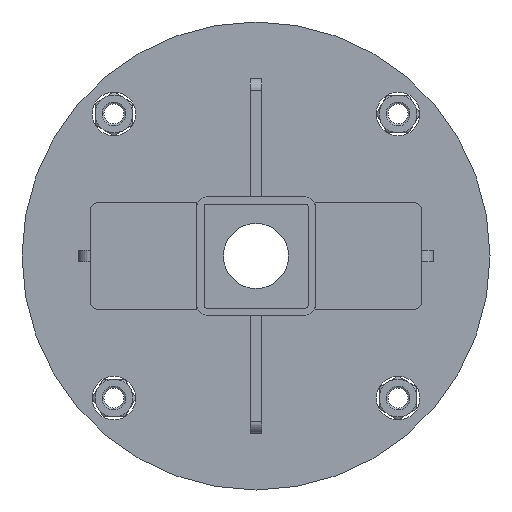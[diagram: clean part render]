
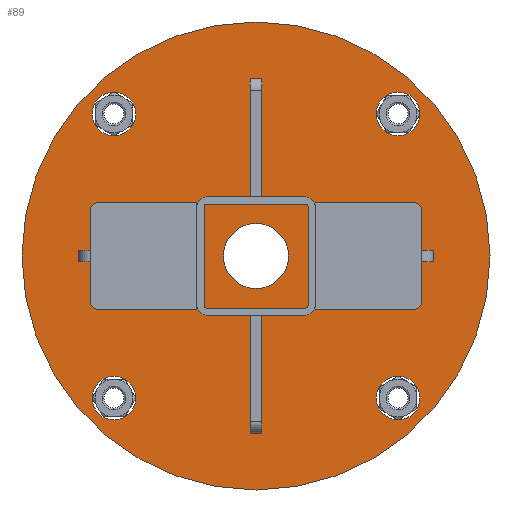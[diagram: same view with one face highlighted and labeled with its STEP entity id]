
A CAD part, front view. The second image highlights one B-rep face of the part: STEP entity #89.
In plain terms, the highlighted planar face has unit normal (0, -1, 0) as drawn and (0, 0, -1) by its records, which use the part's own axes.
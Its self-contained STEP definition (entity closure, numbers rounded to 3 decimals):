
#7 = AXIS2_PLACEMENT_3D ( 'NONE', #2740, #859, #1666 ) ;
#89 = ADVANCED_FACE ( 'NONE', ( #1028, #3237, #3029, #2435, #993, #2746 ), #1055, .F. ) ;
#124 = CARTESIAN_POINT ( 'NONE',  ( -60.104, -60.104, -10. ) ) ;
#127 = ORIENTED_EDGE ( 'NONE', *, *, #1507, .T. ) ;
#135 = CARTESIAN_POINT ( 'NONE',  ( -69.354, 60.104, -10. ) ) ;
#202 = CARTESIAN_POINT ( 'NONE',  ( 69.354, 60.104, -10. ) ) ;
#230 = CIRCLE ( 'NONE', #3252, 9.25 ) ;
#242 = EDGE_CURVE ( 'NONE', #2654, #869, #3076, .T. ) ;
#273 = AXIS2_PLACEMENT_3D ( 'NONE', #964, #699, #1499 ) ;
#388 = CIRCLE ( 'NONE', #1875, 9.25 ) ;
#420 = EDGE_CURVE ( 'NONE', #1089, #1438, #2747, .T. ) ;
#436 = CIRCLE ( 'NONE', #801, 13.75 ) ;
#449 = ORIENTED_EDGE ( 'NONE', *, *, #420, .F. ) ;
#457 = DIRECTION ( 'NONE',  ( 1., 0., 0. ) ) ;
#516 = DIRECTION ( 'NONE',  ( 1., 0., 0. ) ) ;
#519 = EDGE_CURVE ( 'NONE', #2895, #1231, #1435, .T. ) ;
#520 = DIRECTION ( 'NONE',  ( 1., 0., 0. ) ) ;
#552 = DIRECTION ( 'NONE',  ( 1., 0., 0. ) ) ;
#587 = EDGE_CURVE ( 'NONE', #765, #2601, #2549, .T. ) ;
#603 = DIRECTION ( 'NONE',  ( 0., 0., 1. ) ) ;
#664 = DIRECTION ( 'NONE',  ( 1., 0., 0. ) ) ;
#694 = EDGE_LOOP ( 'NONE', ( #3122, #2124 ) ) ;
#699 = DIRECTION ( 'NONE',  ( 0., 0., 1. ) ) ;
#765 = VERTEX_POINT ( 'NONE', #1712 ) ;
#801 = AXIS2_PLACEMENT_3D ( 'NONE', #918, #1733, #2010 ) ;
#859 = DIRECTION ( 'NONE',  ( 0., 0., 1. ) ) ;
#868 = DIRECTION ( 'NONE',  ( 1., 0., 0. ) ) ;
#869 = VERTEX_POINT ( 'NONE', #1671 ) ;
#918 = CARTESIAN_POINT ( 'NONE',  ( 0., 0., -10. ) ) ;
#964 = CARTESIAN_POINT ( 'NONE',  ( -60.104, -60.104, -10. ) ) ;
#977 = VERTEX_POINT ( 'NONE', #3179 ) ;
#993 = FACE_BOUND ( 'NONE', #2935, .T. ) ;
#1019 = EDGE_CURVE ( 'NONE', #1607, #977, #2142, .T. ) ;
#1028 = FACE_BOUND ( 'NONE', #694, .T. ) ;
#1035 = CARTESIAN_POINT ( 'NONE',  ( 0., 0., -10. ) ) ;
#1055 = PLANE ( 'NONE',  #2418 ) ;
#1071 = ORIENTED_EDGE ( 'NONE', *, *, #3206, .T. ) ;
#1074 = CARTESIAN_POINT ( 'NONE',  ( 0., 0., -10. ) ) ;
#1089 = VERTEX_POINT ( 'NONE', #1243 ) ;
#1109 = DIRECTION ( 'NONE',  ( 0., 0., 1. ) ) ;
#1128 = DIRECTION ( 'NONE',  ( 0., 0., 1. ) ) ;
#1152 = EDGE_LOOP ( 'NONE', ( #1426, #2046 ) ) ;
#1231 = VERTEX_POINT ( 'NONE', #1821 ) ;
#1243 = CARTESIAN_POINT ( 'NONE',  ( -99., 0., -10. ) ) ;
#1252 = EDGE_CURVE ( 'NONE', #1438, #1089, #1987, .T. ) ;
#1264 = AXIS2_PLACEMENT_3D ( 'NONE', #124, #2300, #664 ) ;
#1276 = DIRECTION ( 'NONE',  ( 0., 0., 1. ) ) ;
#1397 = ORIENTED_EDGE ( 'NONE', *, *, #2122, .T. ) ;
#1426 = ORIENTED_EDGE ( 'NONE', *, *, #3400, .T. ) ;
#1435 = CIRCLE ( 'NONE', #2101, 9.25 ) ;
#1438 = VERTEX_POINT ( 'NONE', #2228 ) ;
#1488 = EDGE_LOOP ( 'NONE', ( #3119, #1397 ) ) ;
#1499 = DIRECTION ( 'NONE',  ( 1., 0., 0. ) ) ;
#1504 = CIRCLE ( 'NONE', #1264, 9.25 ) ;
#1507 = EDGE_CURVE ( 'NONE', #2601, #765, #230, .T. ) ;
#1543 = DIRECTION ( 'NONE',  ( 1., 0., 0. ) ) ;
#1552 = VERTEX_POINT ( 'NONE', #3073 ) ;
#1576 = CARTESIAN_POINT ( 'NONE',  ( 60.104, -60.104, -10. ) ) ;
#1607 = VERTEX_POINT ( 'NONE', #135 ) ;
#1637 = ORIENTED_EDGE ( 'NONE', *, *, #587, .T. ) ;
#1662 = CARTESIAN_POINT ( 'NONE',  ( 60.104, 60.104, -10. ) ) ;
#1666 = DIRECTION ( 'NONE',  ( 1., 0., 0. ) ) ;
#1671 = CARTESIAN_POINT ( 'NONE',  ( -13.75, 0., -10. ) ) ;
#1712 = CARTESIAN_POINT ( 'NONE',  ( 50.854, 60.104, -10. ) ) ;
#1733 = DIRECTION ( 'NONE',  ( 0., 0., 1. ) ) ;
#1821 = CARTESIAN_POINT ( 'NONE',  ( 50.854, -60.104, -10. ) ) ;
#1847 = AXIS2_PLACEMENT_3D ( 'NONE', #1035, #2941, #1543 ) ;
#1875 = AXIS2_PLACEMENT_3D ( 'NONE', #2239, #1109, #868 ) ;
#1877 = DIRECTION ( 'NONE',  ( 0., 0., 1. ) ) ;
#1915 = CARTESIAN_POINT ( 'NONE',  ( 60.104, 60.104, -10. ) ) ;
#1978 = CARTESIAN_POINT ( 'NONE',  ( 69.354, -60.104, -10. ) ) ;
#1987 = CIRCLE ( 'NONE', #1847, 99. ) ;
#2010 = DIRECTION ( 'NONE',  ( 1., 0., 0. ) ) ;
#2046 = ORIENTED_EDGE ( 'NONE', *, *, #1019, .T. ) ;
#2101 = AXIS2_PLACEMENT_3D ( 'NONE', #3226, #1877, #520 ) ;
#2122 = EDGE_CURVE ( 'NONE', #1231, #2895, #3245, .T. ) ;
#2124 = ORIENTED_EDGE ( 'NONE', *, *, #2394, .T. ) ;
#2137 = DIRECTION ( 'NONE',  ( 1., 0., 0. ) ) ;
#2142 = CIRCLE ( 'NONE', #2469, 9.25 ) ;
#2159 = CARTESIAN_POINT ( 'NONE',  ( 13.75, 0., -10. ) ) ;
#2191 = DIRECTION ( 'NONE',  ( 0., 0., 1. ) ) ;
#2195 = DIRECTION ( 'NONE',  ( 1., 0., 0. ) ) ;
#2197 = AXIS2_PLACEMENT_3D ( 'NONE', #1576, #2971, #516 ) ;
#2216 = AXIS2_PLACEMENT_3D ( 'NONE', #1662, #1128, #3003 ) ;
#2228 = CARTESIAN_POINT ( 'NONE',  ( 99., 0., -10. ) ) ;
#2239 = CARTESIAN_POINT ( 'NONE',  ( -60.104, 60.104, -10. ) ) ;
#2300 = DIRECTION ( 'NONE',  ( 0., 0., 1. ) ) ;
#2318 = CIRCLE ( 'NONE', #273, 9.25 ) ;
#2375 = AXIS2_PLACEMENT_3D ( 'NONE', #3162, #1276, #457 ) ;
#2394 = EDGE_CURVE ( 'NONE', #869, #2654, #436, .T. ) ;
#2418 = AXIS2_PLACEMENT_3D ( 'NONE', #1074, #2431, #2137 ) ;
#2431 = DIRECTION ( 'NONE',  ( 0., 0., 1. ) ) ;
#2435 = FACE_BOUND ( 'NONE', #1488, .T. ) ;
#2469 = AXIS2_PLACEMENT_3D ( 'NONE', #2795, #2191, #552 ) ;
#2549 = CIRCLE ( 'NONE', #2216, 9.25 ) ;
#2551 = VERTEX_POINT ( 'NONE', #2926 ) ;
#2601 = VERTEX_POINT ( 'NONE', #202 ) ;
#2654 = VERTEX_POINT ( 'NONE', #2159 ) ;
#2715 = EDGE_LOOP ( 'NONE', ( #3388, #449 ) ) ;
#2740 = CARTESIAN_POINT ( 'NONE',  ( 0., 0., -10. ) ) ;
#2746 = FACE_OUTER_BOUND ( 'NONE', #2715, .T. ) ;
#2747 = CIRCLE ( 'NONE', #2375, 99. ) ;
#2795 = CARTESIAN_POINT ( 'NONE',  ( -60.104, 60.104, -10. ) ) ;
#2798 = EDGE_LOOP ( 'NONE', ( #127, #1637 ) ) ;
#2895 = VERTEX_POINT ( 'NONE', #1978 ) ;
#2926 = CARTESIAN_POINT ( 'NONE',  ( -50.854, -60.104, -10. ) ) ;
#2935 = EDGE_LOOP ( 'NONE', ( #1071, #3230 ) ) ;
#2941 = DIRECTION ( 'NONE',  ( 0., 0., 1. ) ) ;
#2971 = DIRECTION ( 'NONE',  ( 0., 0., 1. ) ) ;
#3003 = DIRECTION ( 'NONE',  ( 1., 0., 0. ) ) ;
#3029 = FACE_BOUND ( 'NONE', #2798, .T. ) ;
#3048 = EDGE_CURVE ( 'NONE', #1552, #2551, #2318, .T. ) ;
#3073 = CARTESIAN_POINT ( 'NONE',  ( -69.354, -60.104, -10. ) ) ;
#3076 = CIRCLE ( 'NONE', #7, 13.75 ) ;
#3119 = ORIENTED_EDGE ( 'NONE', *, *, #519, .T. ) ;
#3122 = ORIENTED_EDGE ( 'NONE', *, *, #242, .T. ) ;
#3162 = CARTESIAN_POINT ( 'NONE',  ( 0., 0., -10. ) ) ;
#3179 = CARTESIAN_POINT ( 'NONE',  ( -50.854, 60.104, -10. ) ) ;
#3206 = EDGE_CURVE ( 'NONE', #2551, #1552, #1504, .T. ) ;
#3226 = CARTESIAN_POINT ( 'NONE',  ( 60.104, -60.104, -10. ) ) ;
#3230 = ORIENTED_EDGE ( 'NONE', *, *, #3048, .T. ) ;
#3237 = FACE_BOUND ( 'NONE', #1152, .T. ) ;
#3245 = CIRCLE ( 'NONE', #2197, 9.25 ) ;
#3252 = AXIS2_PLACEMENT_3D ( 'NONE', #1915, #603, #2195 ) ;
#3388 = ORIENTED_EDGE ( 'NONE', *, *, #1252, .F. ) ;
#3400 = EDGE_CURVE ( 'NONE', #977, #1607, #388, .T. ) ;
